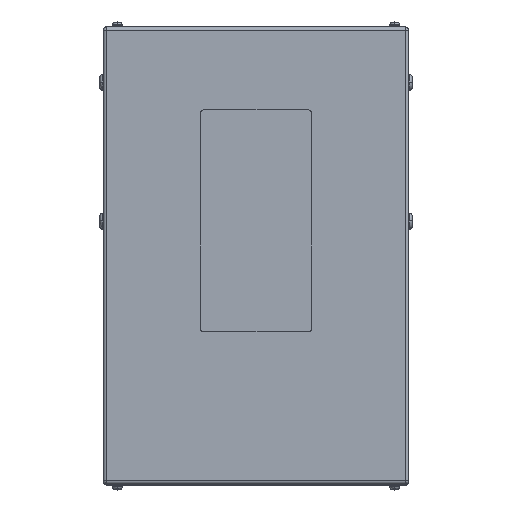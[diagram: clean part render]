
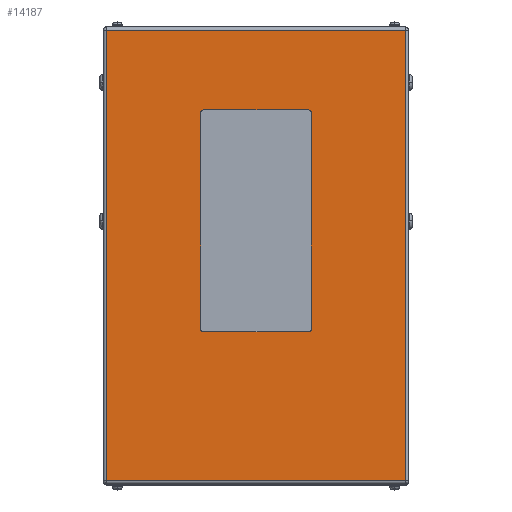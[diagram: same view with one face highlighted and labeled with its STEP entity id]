
A CAD part, top view. The second image highlights one B-rep face of the part: STEP entity #14187.
In plain terms, the highlighted planar face has unit normal (0, 0, 1).
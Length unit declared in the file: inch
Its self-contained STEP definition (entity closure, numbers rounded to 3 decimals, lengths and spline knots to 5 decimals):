
#5 = DIRECTION ( 'NONE',  ( 0., -1., 0. ) ) ;
#178 = VECTOR ( 'NONE', #8935, 39.37008 ) ;
#370 = VECTOR ( 'NONE', #5, 39.37008 ) ;
#655 = LINE ( 'NONE', #19109, #4192 ) ;
#833 = ORIENTED_EDGE ( 'NONE', *, *, #3345, .T. ) ;
#920 = DIRECTION ( 'NONE',  ( 0., 0., -1. ) ) ;
#1155 = PLANE ( 'NONE',  #20849 ) ;
#1180 = DIRECTION ( 'NONE',  ( 1., 0., 0. ) ) ;
#1250 = DIRECTION ( 'NONE',  ( 1., 0., 0. ) ) ;
#1378 = VECTOR ( 'NONE', #16047, 39.37008 ) ;
#1497 = VERTEX_POINT ( 'NONE', #9847 ) ;
#2066 = VERTEX_POINT ( 'NONE', #14467 ) ;
#2515 = EDGE_LOOP ( 'NONE', ( #4434, #6071, #14669, #19919, #15516, #4121, #19783, #17549 ) ) ;
#2567 = AXIS2_PLACEMENT_3D ( 'NONE', #23037, #19355, #1250 ) ;
#3345 = EDGE_CURVE ( 'NONE', #6468, #16885, #8081, .T. ) ;
#3403 = EDGE_CURVE ( 'NONE', #13455, #2066, #11343, .T. ) ;
#4121 = ORIENTED_EDGE ( 'NONE', *, *, #7786, .F. ) ;
#4181 = AXIS2_PLACEMENT_3D ( 'NONE', #6790, #10606, #14300 ) ;
#4192 = VECTOR ( 'NONE', #17342, 39.37008 ) ;
#4300 = VERTEX_POINT ( 'NONE', #5568 ) ;
#4434 = ORIENTED_EDGE ( 'NONE', *, *, #14682, .F. ) ;
#4459 = VERTEX_POINT ( 'NONE', #9025 ) ;
#4984 = LINE ( 'NONE', #6659, #178 ) ;
#5342 = EDGE_CURVE ( 'NONE', #21759, #6468, #17837, .T. ) ;
#5568 = CARTESIAN_POINT ( 'NONE',  ( -10.8, 16.234, 18. ) ) ;
#5684 = VERTEX_POINT ( 'NONE', #8997 ) ;
#5996 = CARTESIAN_POINT ( 'NONE',  ( -4., 10.25, 18. ) ) ;
#6071 = ORIENTED_EDGE ( 'NONE', *, *, #22311, .F. ) ;
#6286 = CARTESIAN_POINT ( 'NONE',  ( -3.75, 10.25, 18. ) ) ;
#6380 = FACE_BOUND ( 'NONE', #2515, .T. ) ;
#6468 = VERTEX_POINT ( 'NONE', #14045 ) ;
#6506 = CIRCLE ( 'NONE', #4181, 0.25 ) ;
#6526 = ORIENTED_EDGE ( 'NONE', *, *, #5342, .T. ) ;
#6659 = CARTESIAN_POINT ( 'NONE',  ( -3.75, 10.5, 18. ) ) ;
#6790 = CARTESIAN_POINT ( 'NONE',  ( 3.75, -5.25, 18. ) ) ;
#6914 = DIRECTION ( 'NONE',  ( -1., 0., 0. ) ) ;
#6944 = CARTESIAN_POINT ( 'NONE',  ( 10.8, -16.234, 18. ) ) ;
#7178 = EDGE_CURVE ( 'NONE', #16885, #4300, #655, .T. ) ;
#7370 = CARTESIAN_POINT ( 'NONE',  ( 4., -5.25, 18. ) ) ;
#7434 = EDGE_CURVE ( 'NONE', #11165, #4459, #10918, .T. ) ;
#7786 = EDGE_CURVE ( 'NONE', #2066, #20337, #15598, .T. ) ;
#7911 = DIRECTION ( 'NONE',  ( 0., -1., 0. ) ) ;
#8081 = LINE ( 'NONE', #9867, #11648 ) ;
#8284 = DIRECTION ( 'NONE',  ( -1., 0., 0. ) ) ;
#8359 = AXIS2_PLACEMENT_3D ( 'NONE', #12657, #10740, #6914 ) ;
#8743 = DIRECTION ( 'NONE',  ( 1., 0., 0. ) ) ;
#8935 = DIRECTION ( 'NONE',  ( -1., 0., 0. ) ) ;
#8997 = CARTESIAN_POINT ( 'NONE',  ( 3.75, -5.5, 18. ) ) ;
#9025 = CARTESIAN_POINT ( 'NONE',  ( -4., -5.25, 18. ) ) ;
#9702 = CARTESIAN_POINT ( 'NONE',  ( -10.8, 16.5, 18. ) ) ;
#9847 = CARTESIAN_POINT ( 'NONE',  ( -3.75, 10.5, 18. ) ) ;
#9867 = CARTESIAN_POINT ( 'NONE',  ( 10.8, 16.5, 18. ) ) ;
#10042 = CARTESIAN_POINT ( 'NONE',  ( -4., 10.25, 18. ) ) ;
#10606 = DIRECTION ( 'NONE',  ( 0., 0., 1. ) ) ;
#10740 = DIRECTION ( 'NONE',  ( 0., 0., 1. ) ) ;
#10918 = LINE ( 'NONE', #5996, #370 ) ;
#11165 = VERTEX_POINT ( 'NONE', #10042 ) ;
#11343 = LINE ( 'NONE', #23420, #1378 ) ;
#11369 = VECTOR ( 'NONE', #8743, 39.37008 ) ;
#11648 = VECTOR ( 'NONE', #12460, 39.37008 ) ;
#12045 = VECTOR ( 'NONE', #21550, 39.37008 ) ;
#12460 = DIRECTION ( 'NONE',  ( 0., 1., 0. ) ) ;
#12657 = CARTESIAN_POINT ( 'NONE',  ( 3.75, 10.25, 18. ) ) ;
#13455 = VERTEX_POINT ( 'NONE', #7370 ) ;
#14045 = CARTESIAN_POINT ( 'NONE',  ( 10.8, -16.234, 18. ) ) ;
#14187 = ADVANCED_FACE ( 'NONE', ( #6380, #19373 ), #1155, .F. ) ;
#14300 = DIRECTION ( 'NONE',  ( 1., 0., 0. ) ) ;
#14467 = CARTESIAN_POINT ( 'NONE',  ( 4., 10.25, 18. ) ) ;
#14653 = AXIS2_PLACEMENT_3D ( 'NONE', #6286, #15582, #1180 ) ;
#14669 = ORIENTED_EDGE ( 'NONE', *, *, #7434, .F. ) ;
#14682 = EDGE_CURVE ( 'NONE', #16355, #5684, #19296, .T. ) ;
#15154 = CARTESIAN_POINT ( 'NONE',  ( 3.75, 10.5, 18. ) ) ;
#15516 = ORIENTED_EDGE ( 'NONE', *, *, #19436, .F. ) ;
#15582 = DIRECTION ( 'NONE',  ( 0., 0., 1. ) ) ;
#15598 = CIRCLE ( 'NONE', #8359, 0.25 ) ;
#15660 = ORIENTED_EDGE ( 'NONE', *, *, #7178, .T. ) ;
#15709 = CARTESIAN_POINT ( 'NONE',  ( -3.75, -5.5, 18. ) ) ;
#16047 = DIRECTION ( 'NONE',  ( 0., 1., 0. ) ) ;
#16284 = CIRCLE ( 'NONE', #2567, 0.25 ) ;
#16355 = VERTEX_POINT ( 'NONE', #23460 ) ;
#16775 = VECTOR ( 'NONE', #7911, 39.37008 ) ;
#16885 = VERTEX_POINT ( 'NONE', #22472 ) ;
#16921 = EDGE_CURVE ( 'NONE', #4300, #21759, #20585, .T. ) ;
#16984 = CIRCLE ( 'NONE', #14653, 0.25 ) ;
#17263 = CARTESIAN_POINT ( 'NONE',  ( 11., 16.5, 18. ) ) ;
#17342 = DIRECTION ( 'NONE',  ( -1., 0., 0. ) ) ;
#17549 = ORIENTED_EDGE ( 'NONE', *, *, #17906, .F. ) ;
#17837 = LINE ( 'NONE', #6944, #11369 ) ;
#17906 = EDGE_CURVE ( 'NONE', #5684, #13455, #6506, .T. ) ;
#18853 = CARTESIAN_POINT ( 'NONE',  ( -10.8, -16.234, 18. ) ) ;
#18989 = EDGE_LOOP ( 'NONE', ( #21734, #6526, #833, #15660 ) ) ;
#19109 = CARTESIAN_POINT ( 'NONE',  ( 11., 16.234, 18. ) ) ;
#19296 = LINE ( 'NONE', #15709, #12045 ) ;
#19355 = DIRECTION ( 'NONE',  ( 0., 0., 1. ) ) ;
#19373 = FACE_OUTER_BOUND ( 'NONE', #18989, .T. ) ;
#19436 = EDGE_CURVE ( 'NONE', #20337, #1497, #4984, .T. ) ;
#19783 = ORIENTED_EDGE ( 'NONE', *, *, #3403, .F. ) ;
#19919 = ORIENTED_EDGE ( 'NONE', *, *, #22673, .F. ) ;
#20337 = VERTEX_POINT ( 'NONE', #15154 ) ;
#20585 = LINE ( 'NONE', #9702, #16775 ) ;
#20849 = AXIS2_PLACEMENT_3D ( 'NONE', #17263, #920, #8284 ) ;
#21550 = DIRECTION ( 'NONE',  ( 1., 0., 0. ) ) ;
#21734 = ORIENTED_EDGE ( 'NONE', *, *, #16921, .T. ) ;
#21759 = VERTEX_POINT ( 'NONE', #18853 ) ;
#22311 = EDGE_CURVE ( 'NONE', #4459, #16355, #16284, .T. ) ;
#22472 = CARTESIAN_POINT ( 'NONE',  ( 10.8, 16.234, 18. ) ) ;
#22673 = EDGE_CURVE ( 'NONE', #1497, #11165, #16984, .T. ) ;
#23037 = CARTESIAN_POINT ( 'NONE',  ( -3.75, -5.25, 18. ) ) ;
#23420 = CARTESIAN_POINT ( 'NONE',  ( 4., 10.25, 18. ) ) ;
#23460 = CARTESIAN_POINT ( 'NONE',  ( -3.75, -5.5, 18. ) ) ;
